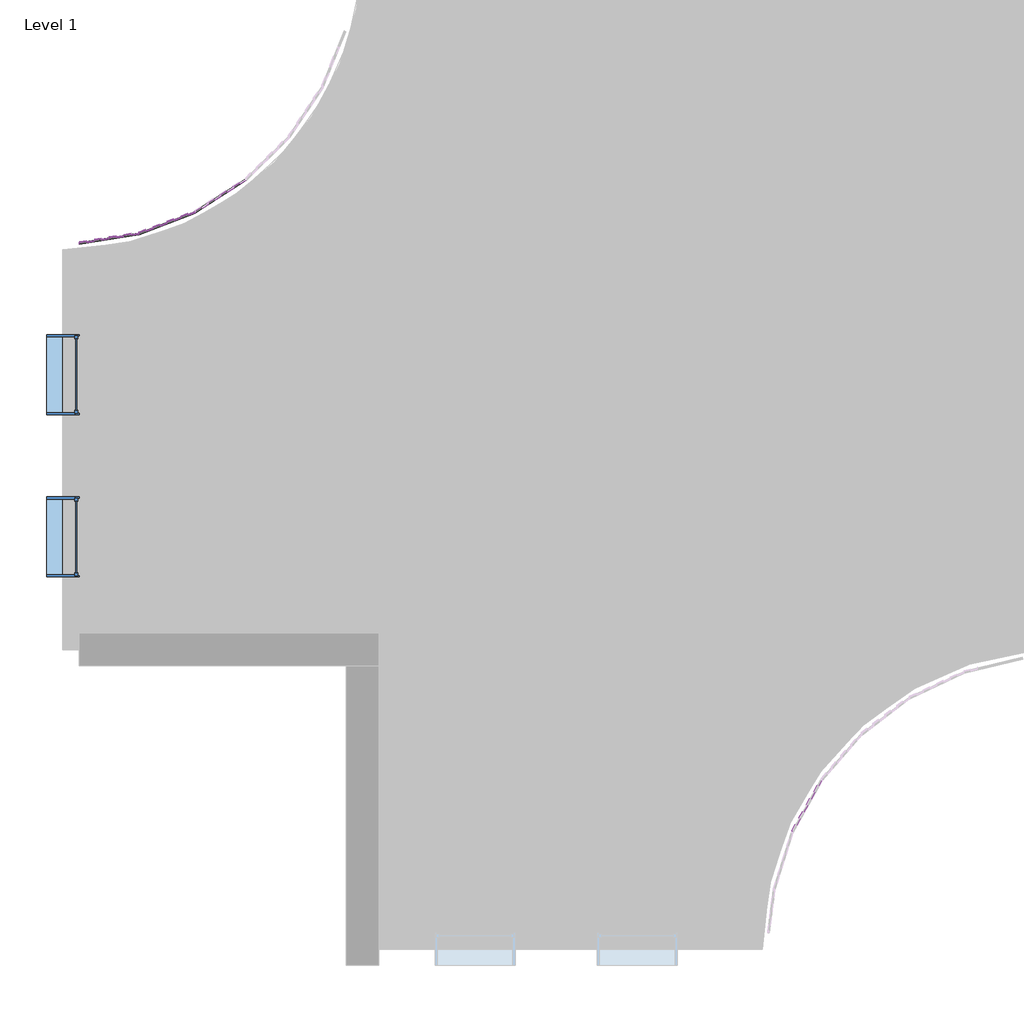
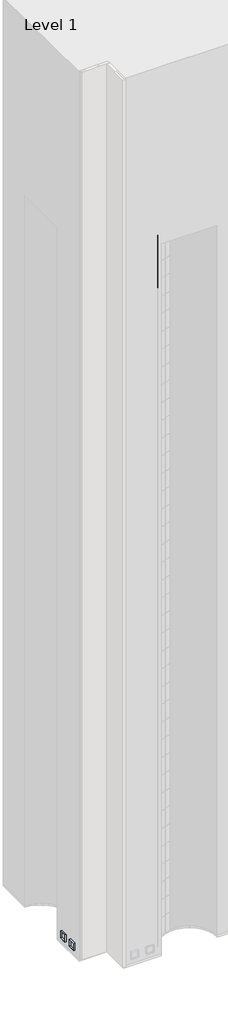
# One storey, part 2 of 20: 120 plates, 2 windows.
"""IFC4 building model written with IfcOpenShell, lengths in millimetres."""

from ifc_helpers import new_model, si_unit, origin, place, context, project, spatial, transform, mapped, element, save
from components import system_panel_glazed_d77d1ebf, window_d0035ecf, window_d434eb62

model = new_model("IFC4")

# Units and contexts
model_context = context("Model", 3, world=origin())
ifc_project = project(units=[si_unit("LENGTHUNIT", "METRE", prefix="MILLI")], contexts=[model_context])

# Site, building, storey
site = spatial("IfcSite", under=ifc_project)
building = spatial("IfcBuilding", under=site)
storey = spatial("IfcBuildingStorey", under=building, Name="Level 1", Elevation=0.0)

# Plates
placement = place(None, origin())
system_panel_glazed_shape = system_panel_glazed_d77d1ebf(model_context)
element("IfcPlate", 1, ObjectType="System Panel : Glazed", at=placement, inside=storey, context=model_context, shape_type="MappedRepresentation", body=[
    mapped(system_panel_glazed_shape, transform((-11020.1328323, -10556.8719816, 0.0), x_axis=(0.987325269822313, 0.15870983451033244, 0.0), y_axis=(-0.15870983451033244, 0.987325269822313, 0.0), z_axis=(0.0, 0.0, 1.0))),
])
element("IfcPlate", 2, ObjectType="System Panel : Glazed", at=placement, inside=storey, context=model_context, shape_type="MappedRepresentation", body=[
    mapped(system_panel_glazed_shape, transform((-11020.1328323, -10556.8719816, 3048.0), x_axis=(0.987325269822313, 0.15870983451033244, 0.0), y_axis=(-0.15870983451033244, 0.987325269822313, 0.0), z_axis=(0.0, 0.0, 1.0))),
])
element("IfcPlate", 3, ObjectType="System Panel : Glazed", at=placement, inside=storey, context=model_context, shape_type="MappedRepresentation", body=[
    mapped(system_panel_glazed_shape, transform((-11020.1328323, -10556.8719816, 6096.0), x_axis=(0.987325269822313, 0.15870983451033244, 0.0), y_axis=(-0.15870983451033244, 0.987325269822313, 0.0), z_axis=(0.0, 0.0, 1.0))),
])
element("IfcPlate", 4, ObjectType="System Panel : Glazed", at=placement, inside=storey, context=model_context, shape_type="MappedRepresentation", body=[
    mapped(system_panel_glazed_shape, transform((-11020.1328323, -10556.8719816, 9144.0), x_axis=(0.987325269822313, 0.15870983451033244, 0.0), y_axis=(-0.15870983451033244, 0.987325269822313, 0.0), z_axis=(0.0, 0.0, 1.0))),
])
element("IfcPlate", 5, ObjectType="System Panel : Glazed", at=placement, inside=storey, context=model_context, shape_type="MappedRepresentation", body=[
    mapped(system_panel_glazed_shape, transform((-11020.1328323, -10556.8719816, 12192.0), x_axis=(0.987325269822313, 0.15870983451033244, 0.0), y_axis=(-0.15870983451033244, 0.987325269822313, 0.0), z_axis=(0.0, 0.0, 1.0))),
])
element("IfcPlate", 6, ObjectType="System Panel : Glazed", at=placement, inside=storey, context=model_context, shape_type="MappedRepresentation", body=[
    mapped(system_panel_glazed_shape, transform((-11020.1328323, -10556.8719816, 15240.0), x_axis=(0.987325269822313, 0.15870983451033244, 0.0), y_axis=(-0.15870983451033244, 0.987325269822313, 0.0), z_axis=(0.0, 0.0, 1.0))),
])
element("IfcPlate", 7, ObjectType="System Panel : Glazed", at=placement, inside=storey, context=model_context, shape_type="MappedRepresentation", body=[
    mapped(system_panel_glazed_shape, transform((-11020.1328323, -10556.8719816, 18288.0), x_axis=(0.987325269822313, 0.15870983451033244, 0.0), y_axis=(-0.15870983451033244, 0.987325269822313, 0.0), z_axis=(0.0, 0.0, 1.0))),
])
element("IfcPlate", 8, ObjectType="System Panel : Glazed", at=placement, inside=storey, context=model_context, shape_type="MappedRepresentation", body=[
    mapped(system_panel_glazed_shape, transform((-11020.1328323, -10556.8719816, 21336.0), x_axis=(0.987325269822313, 0.15870983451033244, 0.0), y_axis=(-0.15870983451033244, 0.987325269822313, 0.0), z_axis=(0.0, 0.0, 1.0))),
])
element("IfcPlate", 9, ObjectType="System Panel : Glazed", at=placement, inside=storey, context=model_context, shape_type="MappedRepresentation", body=[
    mapped(system_panel_glazed_shape, transform((-11020.1328323, -10556.8719816, 24384.0), x_axis=(0.987325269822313, 0.15870983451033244, 0.0), y_axis=(-0.15870983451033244, 0.987325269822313, 0.0), z_axis=(0.0, 0.0, 1.0))),
])
element("IfcPlate", 10, ObjectType="System Panel : Glazed", at=placement, inside=storey, context=model_context, shape_type="MappedRepresentation", body=[
    mapped(system_panel_glazed_shape, transform((-11020.1328323, -10556.8719816, 27432.0), x_axis=(0.987325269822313, 0.15870983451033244, 0.0), y_axis=(-0.15870983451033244, 0.987325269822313, 0.0), z_axis=(0.0, 0.0, 1.0))),
])
element("IfcPlate", 11, ObjectType="System Panel : Glazed", at=placement, inside=storey, context=model_context, shape_type="MappedRepresentation", body=[
    mapped(system_panel_glazed_shape, transform((-11020.1328323, -10556.8719816, 30480.0), x_axis=(0.987325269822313, 0.15870983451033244, 0.0), y_axis=(-0.15870983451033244, 0.987325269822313, 0.0), z_axis=(0.0, 0.0, 1.0))),
])
element("IfcPlate", 12, ObjectType="System Panel : Glazed", at=placement, inside=storey, context=model_context, shape_type="MappedRepresentation", body=[
    mapped(system_panel_glazed_shape, transform((-11020.1328323, -10556.8719816, 33528.0), x_axis=(0.987325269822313, 0.15870983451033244, 0.0), y_axis=(-0.15870983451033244, 0.987325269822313, 0.0), z_axis=(0.0, 0.0, 1.0))),
])
element("IfcPlate", 13, ObjectType="System Panel : Glazed", at=placement, inside=storey, context=model_context, shape_type="MappedRepresentation", body=[
    mapped(system_panel_glazed_shape, transform((-11020.1328323, -10556.8719816, 36576.0), x_axis=(0.987325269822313, 0.15870983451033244, 0.0), y_axis=(-0.15870983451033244, 0.987325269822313, 0.0), z_axis=(0.0, 0.0, 1.0))),
])
element("IfcPlate", 14, ObjectType="System Panel : Glazed", at=placement, inside=storey, context=model_context, shape_type="MappedRepresentation", body=[
    mapped(system_panel_glazed_shape, transform((-11020.1328323, -10556.8719816, 39624.0), x_axis=(0.987325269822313, 0.15870983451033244, 0.0), y_axis=(-0.15870983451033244, 0.987325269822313, 0.0), z_axis=(0.0, 0.0, 1.0))),
])
element("IfcPlate", 15, ObjectType="System Panel : Glazed", at=placement, inside=storey, context=model_context, shape_type="MappedRepresentation", body=[
    mapped(system_panel_glazed_shape, transform((-11020.1328323, -10556.8719816, 42672.0), x_axis=(0.987325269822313, 0.15870983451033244, 0.0), y_axis=(-0.15870983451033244, 0.987325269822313, 0.0), z_axis=(0.0, 0.0, 1.0))),
])
element("IfcPlate", 16, ObjectType="System Panel : Glazed", at=placement, inside=storey, context=model_context, shape_type="MappedRepresentation", body=[
    mapped(system_panel_glazed_shape, transform((-11020.1328323, -10556.8719816, 45720.0), x_axis=(0.987325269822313, 0.15870983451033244, 0.0), y_axis=(-0.15870983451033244, 0.987325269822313, 0.0), z_axis=(0.0, 0.0, 1.0))),
])
element("IfcPlate", 17, ObjectType="System Panel : Glazed", at=placement, inside=storey, context=model_context, shape_type="MappedRepresentation", body=[
    mapped(system_panel_glazed_shape, transform((-11020.1328323, -10556.8719816, 48768.0), x_axis=(0.987325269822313, 0.15870983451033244, 0.0), y_axis=(-0.15870983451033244, 0.987325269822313, 0.0), z_axis=(0.0, 0.0, 1.0))),
])
element("IfcPlate", 18, ObjectType="System Panel : Glazed", at=placement, inside=storey, context=model_context, shape_type="MappedRepresentation", body=[
    mapped(system_panel_glazed_shape, transform((-11020.1328323, -10556.8719816, 51816.0), x_axis=(0.987325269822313, 0.15870983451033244, 0.0), y_axis=(-0.15870983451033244, 0.987325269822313, 0.0), z_axis=(0.0, 0.0, 1.0))),
])
element("IfcPlate", 19, ObjectType="System Panel : Glazed", at=placement, inside=storey, context=model_context, shape_type="MappedRepresentation", body=[
    mapped(system_panel_glazed_shape, transform((-11020.1328323, -10556.8719816, 54864.0), x_axis=(0.987325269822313, 0.15870983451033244, 0.0), y_axis=(-0.15870983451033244, 0.987325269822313, 0.0), z_axis=(0.0, 0.0, 1.0))),
])
element("IfcPlate", 20, ObjectType="System Panel : Glazed", at=placement, inside=storey, context=model_context, shape_type="MappedRepresentation", body=[
    mapped(system_panel_glazed_shape, transform((-11020.1328323, -10556.8719816, 57912.0), x_axis=(0.987325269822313, 0.15870983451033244, 0.0), y_axis=(-0.15870983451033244, 0.987325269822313, 0.0), z_axis=(0.0, 0.0, 1.0))),
])
element("IfcPlate", 21, ObjectType="System Panel : Glazed", at=placement, inside=storey, context=model_context, shape_type="MappedRepresentation", body=[
    mapped(system_panel_glazed_shape, transform((-11020.1328323, -10556.8719816, 60960.0), x_axis=(0.987325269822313, 0.15870983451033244, 0.0), y_axis=(-0.15870983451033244, 0.987325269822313, 0.0), z_axis=(0.0, 0.0, 1.0))),
])
element("IfcPlate", 22, ObjectType="System Panel : Glazed", at=placement, inside=storey, context=model_context, shape_type="MappedRepresentation", body=[
    mapped(system_panel_glazed_shape, transform((-11020.1328323, -10556.8719816, 64008.0), x_axis=(0.987325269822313, 0.15870983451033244, 0.0), y_axis=(-0.15870983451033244, 0.987325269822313, 0.0), z_axis=(0.0, 0.0, 1.0))),
])
element("IfcPlate", 23, ObjectType="System Panel : Glazed", at=placement, inside=storey, context=model_context, shape_type="MappedRepresentation", body=[
    mapped(system_panel_glazed_shape, transform((-11020.1328323, -10556.8719816, 67056.0), x_axis=(0.987325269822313, 0.15870983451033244, 0.0), y_axis=(-0.15870983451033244, 0.987325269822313, 0.0), z_axis=(0.0, 0.0, 1.0))),
])
element("IfcPlate", 24, ObjectType="System Panel : Glazed", at=placement, inside=storey, context=model_context, shape_type="MappedRepresentation", body=[
    mapped(system_panel_glazed_shape, transform((-11020.1328323, -10556.8719816, 70104.0), x_axis=(0.987325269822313, 0.15870983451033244, 0.0), y_axis=(-0.15870983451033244, 0.987325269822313, 0.0), z_axis=(0.0, 0.0, 1.0))),
])
element("IfcPlate", 25, ObjectType="System Panel : Glazed", at=placement, inside=storey, context=model_context, shape_type="MappedRepresentation", body=[
    mapped(system_panel_glazed_shape, transform((-11020.1328323, -10556.8719816, 73152.0), x_axis=(0.987325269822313, 0.15870983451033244, 0.0), y_axis=(-0.15870983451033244, 0.987325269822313, 0.0), z_axis=(0.0, 0.0, 1.0))),
])
element("IfcPlate", 26, ObjectType="System Panel : Glazed", at=placement, inside=storey, context=model_context, shape_type="MappedRepresentation", body=[
    mapped(system_panel_glazed_shape, transform((-11020.1328323, -10556.8719816, 76200.0), x_axis=(0.987325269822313, 0.15870983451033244, 0.0), y_axis=(-0.15870983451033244, 0.987325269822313, 0.0), z_axis=(0.0, 0.0, 1.0))),
])
element("IfcPlate", 27, ObjectType="System Panel : Glazed", at=placement, inside=storey, context=model_context, shape_type="MappedRepresentation", body=[
    mapped(system_panel_glazed_shape, transform((-11020.1328323, -10556.8719816, 79248.0), x_axis=(0.987325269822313, 0.15870983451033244, 0.0), y_axis=(-0.15870983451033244, 0.987325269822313, 0.0), z_axis=(0.0, 0.0, 1.0))),
])
element("IfcPlate", 28, ObjectType="System Panel : Glazed", at=placement, inside=storey, context=model_context, shape_type="MappedRepresentation", body=[
    mapped(system_panel_glazed_shape, transform((-11020.1328323, -10556.8719816, 82296.0), x_axis=(0.987325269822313, 0.15870983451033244, 0.0), y_axis=(-0.15870983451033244, 0.987325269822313, 0.0), z_axis=(0.0, 0.0, 1.0))),
])
element("IfcPlate", 29, ObjectType="System Panel : Glazed", at=placement, inside=storey, context=model_context, shape_type="MappedRepresentation", body=[
    mapped(system_panel_glazed_shape, transform((-11020.1328323, -10556.8719816, 85344.0), x_axis=(0.987325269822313, 0.15870983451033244, 0.0), y_axis=(-0.15870983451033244, 0.987325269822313, 0.0), z_axis=(0.0, 0.0, 1.0))),
])
element("IfcPlate", 30, ObjectType="System Panel : Glazed", at=placement, inside=storey, context=model_context, shape_type="MappedRepresentation", body=[
    mapped(system_panel_glazed_shape, transform((-11020.1328323, -10556.8719816, 88392.0), x_axis=(0.987325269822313, 0.15870983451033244, 0.0), y_axis=(-0.15870983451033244, 0.987325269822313, 0.0), z_axis=(0.0, 0.0, 1.0))),
])
element("IfcPlate", 31, ObjectType="System Panel : Glazed", at=placement, inside=storey, context=model_context, shape_type="MappedRepresentation", body=[
    mapped(system_panel_glazed_shape, transform((-11020.1328323, -10556.8719816, 91440.0), x_axis=(0.987325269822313, 0.15870983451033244, 0.0), y_axis=(-0.15870983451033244, 0.987325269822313, 0.0), z_axis=(0.0, 0.0, 1.0))),
])
element("IfcPlate", 32, ObjectType="System Panel : Glazed", at=placement, inside=storey, context=model_context, shape_type="MappedRepresentation", body=[
    mapped(system_panel_glazed_shape, transform((-11020.1328323, -10556.8719816, 94488.0), x_axis=(0.987325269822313, 0.15870983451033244, 0.0), y_axis=(-0.15870983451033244, 0.987325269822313, 0.0), z_axis=(0.0, 0.0, 1.0))),
])
element("IfcPlate", 33, ObjectType="System Panel : Glazed", at=placement, inside=storey, context=model_context, shape_type="MappedRepresentation", body=[
    mapped(system_panel_glazed_shape, transform((-11020.1328323, -10556.8719816, 97536.0), x_axis=(0.987325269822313, 0.15870983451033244, 0.0), y_axis=(-0.15870983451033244, 0.987325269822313, 0.0), z_axis=(0.0, 0.0, 1.0))),
])
element("IfcPlate", 34, ObjectType="System Panel : Glazed", at=placement, inside=storey, context=model_context, shape_type="MappedRepresentation", body=[
    mapped(system_panel_glazed_shape, transform((-11020.1328323, -10556.8719816, 100584.0), x_axis=(0.987325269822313, 0.15870983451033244, 0.0), y_axis=(-0.15870983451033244, 0.987325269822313, 0.0), z_axis=(0.0, 0.0, 1.0))),
])
element("IfcPlate", 35, ObjectType="System Panel : Glazed", at=placement, inside=storey, context=model_context, shape_type="MappedRepresentation", body=[
    mapped(system_panel_glazed_shape, transform((-341.6843115, -19264.3431106, 112776.0), x_axis=(-0.4890804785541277, -0.8722386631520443, 0.0), y_axis=(0.8722386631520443, -0.4890804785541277, 0.0), z_axis=(0.0, 0.0, 1.0))),
])
element("IfcPlate", 36, ObjectType="System Panel : Glazed", at=placement, inside=storey, context=model_context, shape_type="MappedRepresentation", body=[
    mapped(system_panel_glazed_shape, transform((-341.6843115, -19264.3431106, 115824.0), x_axis=(-0.4890804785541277, -0.8722386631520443, 0.0), y_axis=(0.8722386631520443, -0.4890804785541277, 0.0), z_axis=(0.0, 0.0, 1.0))),
])
element("IfcPlate", 37, ObjectType="System Panel : Glazed", at=placement, inside=storey, context=model_context, shape_type="MappedRepresentation", body=[
    mapped(system_panel_glazed_shape, transform((-341.6843115, -19264.3431106, 118872.0), x_axis=(-0.4890804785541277, -0.8722386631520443, 0.0), y_axis=(0.8722386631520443, -0.4890804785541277, 0.0), z_axis=(0.0, 0.0, 1.0))),
])
element("IfcPlate", 38, ObjectType="System Panel : Glazed", at=placement, inside=storey, context=model_context, shape_type="MappedRepresentation", body=[
    mapped(system_panel_glazed_shape, transform((-9330.0583838, -9910.4472199, 0.0), x_axis=(0.8412279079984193, 0.5406806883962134, 0.0), y_axis=(-0.5406806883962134, 0.8412279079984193, 0.0), z_axis=(0.0, 0.0, 1.0))),
])
element("IfcPlate", 39, ObjectType="System Panel : Glazed", at=placement, inside=storey, context=model_context, shape_type="MappedRepresentation", body=[
    mapped(system_panel_glazed_shape, transform((-9330.0583838, -9910.4472199, 3048.0), x_axis=(0.8412279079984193, 0.5406806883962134, 0.0), y_axis=(-0.5406806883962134, 0.8412279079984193, 0.0), z_axis=(0.0, 0.0, 1.0))),
])
element("IfcPlate", 40, ObjectType="System Panel : Glazed", at=placement, inside=storey, context=model_context, shape_type="MappedRepresentation", body=[
    mapped(system_panel_glazed_shape, transform((-9330.0583838, -9910.4472199, 6096.0), x_axis=(0.8412279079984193, 0.5406806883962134, 0.0), y_axis=(-0.5406806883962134, 0.8412279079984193, 0.0), z_axis=(0.0, 0.0, 1.0))),
])
element("IfcPlate", 41, ObjectType="System Panel : Glazed", at=placement, inside=storey, context=model_context, shape_type="MappedRepresentation", body=[
    mapped(system_panel_glazed_shape, transform((-9330.0583838, -9910.4472199, 9144.0), x_axis=(0.8412279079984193, 0.5406806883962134, 0.0), y_axis=(-0.5406806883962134, 0.8412279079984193, 0.0), z_axis=(0.0, 0.0, 1.0))),
])
element("IfcPlate", 42, ObjectType="System Panel : Glazed", at=placement, inside=storey, context=model_context, shape_type="MappedRepresentation", body=[
    mapped(system_panel_glazed_shape, transform((-9330.0583838, -9910.4472199, 12192.0), x_axis=(0.8412279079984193, 0.5406806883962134, 0.0), y_axis=(-0.5406806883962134, 0.8412279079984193, 0.0), z_axis=(0.0, 0.0, 1.0))),
])
element("IfcPlate", 43, ObjectType="System Panel : Glazed", at=placement, inside=storey, context=model_context, shape_type="MappedRepresentation", body=[
    mapped(system_panel_glazed_shape, transform((-9330.0583838, -9910.4472199, 15240.0), x_axis=(0.8412279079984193, 0.5406806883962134, 0.0), y_axis=(-0.5406806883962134, 0.8412279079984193, 0.0), z_axis=(0.0, 0.0, 1.0))),
])
element("IfcPlate", 44, ObjectType="System Panel : Glazed", at=placement, inside=storey, context=model_context, shape_type="MappedRepresentation", body=[
    mapped(system_panel_glazed_shape, transform((-9330.0583838, -9910.4472199, 18288.0), x_axis=(0.8412279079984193, 0.5406806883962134, 0.0), y_axis=(-0.5406806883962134, 0.8412279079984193, 0.0), z_axis=(0.0, 0.0, 1.0))),
])
element("IfcPlate", 45, ObjectType="System Panel : Glazed", at=placement, inside=storey, context=model_context, shape_type="MappedRepresentation", body=[
    mapped(system_panel_glazed_shape, transform((-9330.0583838, -9910.4472199, 21336.0), x_axis=(0.8412279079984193, 0.5406806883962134, 0.0), y_axis=(-0.5406806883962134, 0.8412279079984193, 0.0), z_axis=(0.0, 0.0, 1.0))),
])
element("IfcPlate", 46, ObjectType="System Panel : Glazed", at=placement, inside=storey, context=model_context, shape_type="MappedRepresentation", body=[
    mapped(system_panel_glazed_shape, transform((-9330.0583838, -9910.4472199, 24384.0), x_axis=(0.8412279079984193, 0.5406806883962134, 0.0), y_axis=(-0.5406806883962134, 0.8412279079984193, 0.0), z_axis=(0.0, 0.0, 1.0))),
])
element("IfcPlate", 47, ObjectType="System Panel : Glazed", at=placement, inside=storey, context=model_context, shape_type="MappedRepresentation", body=[
    mapped(system_panel_glazed_shape, transform((-9330.0583838, -9910.4472199, 27432.0), x_axis=(0.8412279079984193, 0.5406806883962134, 0.0), y_axis=(-0.5406806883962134, 0.8412279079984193, 0.0), z_axis=(0.0, 0.0, 1.0))),
])
element("IfcPlate", 48, ObjectType="System Panel : Glazed", at=placement, inside=storey, context=model_context, shape_type="MappedRepresentation", body=[
    mapped(system_panel_glazed_shape, transform((-9330.0583838, -9910.4472199, 30480.0), x_axis=(0.8412279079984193, 0.5406806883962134, 0.0), y_axis=(-0.5406806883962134, 0.8412279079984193, 0.0), z_axis=(0.0, 0.0, 1.0))),
])
element("IfcPlate", 49, ObjectType="System Panel : Glazed", at=placement, inside=storey, context=model_context, shape_type="MappedRepresentation", body=[
    mapped(system_panel_glazed_shape, transform((-9330.0583838, -9910.4472199, 33528.0), x_axis=(0.8412279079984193, 0.5406806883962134, 0.0), y_axis=(-0.5406806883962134, 0.8412279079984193, 0.0), z_axis=(0.0, 0.0, 1.0))),
])
element("IfcPlate", 50, ObjectType="System Panel : Glazed", at=placement, inside=storey, context=model_context, shape_type="MappedRepresentation", body=[
    mapped(system_panel_glazed_shape, transform((-9330.0583838, -9910.4472199, 36576.0), x_axis=(0.8412279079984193, 0.5406806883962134, 0.0), y_axis=(-0.5406806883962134, 0.8412279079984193, 0.0), z_axis=(0.0, 0.0, 1.0))),
])
element("IfcPlate", 51, ObjectType="System Panel : Glazed", at=placement, inside=storey, context=model_context, shape_type="MappedRepresentation", body=[
    mapped(system_panel_glazed_shape, transform((-9330.0583838, -9910.4472199, 39624.0), x_axis=(0.8412279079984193, 0.5406806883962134, 0.0), y_axis=(-0.5406806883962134, 0.8412279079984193, 0.0), z_axis=(0.0, 0.0, 1.0))),
])
element("IfcPlate", 52, ObjectType="System Panel : Glazed", at=placement, inside=storey, context=model_context, shape_type="MappedRepresentation", body=[
    mapped(system_panel_glazed_shape, transform((-9330.0583838, -9910.4472199, 42672.0), x_axis=(0.8412279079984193, 0.5406806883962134, 0.0), y_axis=(-0.5406806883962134, 0.8412279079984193, 0.0), z_axis=(0.0, 0.0, 1.0))),
])
element("IfcPlate", 53, ObjectType="System Panel : Glazed", at=placement, inside=storey, context=model_context, shape_type="MappedRepresentation", body=[
    mapped(system_panel_glazed_shape, transform((-9330.0583838, -9910.4472199, 45720.0), x_axis=(0.8412279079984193, 0.5406806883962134, 0.0), y_axis=(-0.5406806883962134, 0.8412279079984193, 0.0), z_axis=(0.0, 0.0, 1.0))),
])
element("IfcPlate", 54, ObjectType="System Panel : Glazed", at=placement, inside=storey, context=model_context, shape_type="MappedRepresentation", body=[
    mapped(system_panel_glazed_shape, transform((-9330.0583838, -9910.4472199, 48768.0), x_axis=(0.8412279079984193, 0.5406806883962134, 0.0), y_axis=(-0.5406806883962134, 0.8412279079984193, 0.0), z_axis=(0.0, 0.0, 1.0))),
])
element("IfcPlate", 55, ObjectType="System Panel : Glazed", at=placement, inside=storey, context=model_context, shape_type="MappedRepresentation", body=[
    mapped(system_panel_glazed_shape, transform((-9330.0583838, -9910.4472199, 51816.0), x_axis=(0.8412279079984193, 0.5406806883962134, 0.0), y_axis=(-0.5406806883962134, 0.8412279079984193, 0.0), z_axis=(0.0, 0.0, 1.0))),
])
element("IfcPlate", 56, ObjectType="System Panel : Glazed", at=placement, inside=storey, context=model_context, shape_type="MappedRepresentation", body=[
    mapped(system_panel_glazed_shape, transform((-9330.0583838, -9910.4472199, 54864.0), x_axis=(0.8412279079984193, 0.5406806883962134, 0.0), y_axis=(-0.5406806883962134, 0.8412279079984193, 0.0), z_axis=(0.0, 0.0, 1.0))),
])
element("IfcPlate", 57, ObjectType="System Panel : Glazed", at=placement, inside=storey, context=model_context, shape_type="MappedRepresentation", body=[
    mapped(system_panel_glazed_shape, transform((-9330.0583838, -9910.4472199, 57912.0), x_axis=(0.8412279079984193, 0.5406806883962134, 0.0), y_axis=(-0.5406806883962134, 0.8412279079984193, 0.0), z_axis=(0.0, 0.0, 1.0))),
])
element("IfcPlate", 58, ObjectType="System Panel : Glazed", at=placement, inside=storey, context=model_context, shape_type="MappedRepresentation", body=[
    mapped(system_panel_glazed_shape, transform((-9330.0583838, -9910.4472199, 60960.0), x_axis=(0.8412279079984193, 0.5406806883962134, 0.0), y_axis=(-0.5406806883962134, 0.8412279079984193, 0.0), z_axis=(0.0, 0.0, 1.0))),
])
element("IfcPlate", 59, ObjectType="System Panel : Glazed", at=placement, inside=storey, context=model_context, shape_type="MappedRepresentation", body=[
    mapped(system_panel_glazed_shape, transform((-9330.0583838, -9910.4472199, 64008.0), x_axis=(0.8412279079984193, 0.5406806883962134, 0.0), y_axis=(-0.5406806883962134, 0.8412279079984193, 0.0), z_axis=(0.0, 0.0, 1.0))),
])
element("IfcPlate", 60, ObjectType="System Panel : Glazed", at=placement, inside=storey, context=model_context, shape_type="MappedRepresentation", body=[
    mapped(system_panel_glazed_shape, transform((-9330.0583838, -9910.4472199, 67056.0), x_axis=(0.8412279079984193, 0.5406806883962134, 0.0), y_axis=(-0.5406806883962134, 0.8412279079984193, 0.0), z_axis=(0.0, 0.0, 1.0))),
])
element("IfcPlate", 61, ObjectType="System Panel : Glazed", at=placement, inside=storey, context=model_context, shape_type="MappedRepresentation", body=[
    mapped(system_panel_glazed_shape, transform((-9330.0583838, -9910.4472199, 70104.0), x_axis=(0.8412279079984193, 0.5406806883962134, 0.0), y_axis=(-0.5406806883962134, 0.8412279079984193, 0.0), z_axis=(0.0, 0.0, 1.0))),
])
element("IfcPlate", 62, ObjectType="System Panel : Glazed", at=placement, inside=storey, context=model_context, shape_type="MappedRepresentation", body=[
    mapped(system_panel_glazed_shape, transform((-9330.0583838, -9910.4472199, 73152.0), x_axis=(0.8412279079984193, 0.5406806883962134, 0.0), y_axis=(-0.5406806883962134, 0.8412279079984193, 0.0), z_axis=(0.0, 0.0, 1.0))),
])
element("IfcPlate", 63, ObjectType="System Panel : Glazed", at=placement, inside=storey, context=model_context, shape_type="MappedRepresentation", body=[
    mapped(system_panel_glazed_shape, transform((-9330.0583838, -9910.4472199, 76200.0), x_axis=(0.8412279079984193, 0.5406806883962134, 0.0), y_axis=(-0.5406806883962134, 0.8412279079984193, 0.0), z_axis=(0.0, 0.0, 1.0))),
])
element("IfcPlate", 64, ObjectType="System Panel : Glazed", at=placement, inside=storey, context=model_context, shape_type="MappedRepresentation", body=[
    mapped(system_panel_glazed_shape, transform((-9330.0583838, -9910.4472199, 79248.0), x_axis=(0.8412279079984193, 0.5406806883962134, 0.0), y_axis=(-0.5406806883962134, 0.8412279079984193, 0.0), z_axis=(0.0, 0.0, 1.0))),
])
element("IfcPlate", 65, ObjectType="System Panel : Glazed", at=placement, inside=storey, context=model_context, shape_type="MappedRepresentation", body=[
    mapped(system_panel_glazed_shape, transform((-9330.0583838, -9910.4472199, 82296.0), x_axis=(0.8412279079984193, 0.5406806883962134, 0.0), y_axis=(-0.5406806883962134, 0.8412279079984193, 0.0), z_axis=(0.0, 0.0, 1.0))),
])
element("IfcPlate", 66, ObjectType="System Panel : Glazed", at=placement, inside=storey, context=model_context, shape_type="MappedRepresentation", body=[
    mapped(system_panel_glazed_shape, transform((-9330.0583838, -9910.4472199, 85344.0), x_axis=(0.8412279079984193, 0.5406806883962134, 0.0), y_axis=(-0.5406806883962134, 0.8412279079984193, 0.0), z_axis=(0.0, 0.0, 1.0))),
])
element("IfcPlate", 67, ObjectType="System Panel : Glazed", at=placement, inside=storey, context=model_context, shape_type="MappedRepresentation", body=[
    mapped(system_panel_glazed_shape, transform((-9330.0583838, -9910.4472199, 88392.0), x_axis=(0.8412279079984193, 0.5406806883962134, 0.0), y_axis=(-0.5406806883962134, 0.8412279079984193, 0.0), z_axis=(0.0, 0.0, 1.0))),
])
element("IfcPlate", 68, ObjectType="System Panel : Glazed", at=placement, inside=storey, context=model_context, shape_type="MappedRepresentation", body=[
    mapped(system_panel_glazed_shape, transform((-9330.0583838, -9910.4472199, 91440.0), x_axis=(0.8412279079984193, 0.5406806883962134, 0.0), y_axis=(-0.5406806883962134, 0.8412279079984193, 0.0), z_axis=(0.0, 0.0, 1.0))),
])
element("IfcPlate", 69, ObjectType="System Panel : Glazed", at=placement, inside=storey, context=model_context, shape_type="MappedRepresentation", body=[
    mapped(system_panel_glazed_shape, transform((-9330.0583838, -9910.4472199, 94488.0), x_axis=(0.8412279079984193, 0.5406806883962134, 0.0), y_axis=(-0.5406806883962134, 0.8412279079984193, 0.0), z_axis=(0.0, 0.0, 1.0))),
])
element("IfcPlate", 70, ObjectType="System Panel : Glazed", at=placement, inside=storey, context=model_context, shape_type="MappedRepresentation", body=[
    mapped(system_panel_glazed_shape, transform((-9330.0583838, -9910.4472199, 97536.0), x_axis=(0.8412279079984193, 0.5406806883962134, 0.0), y_axis=(-0.5406806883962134, 0.8412279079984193, 0.0), z_axis=(0.0, 0.0, 1.0))),
])
element("IfcPlate", 71, ObjectType="System Panel : Glazed", at=placement, inside=storey, context=model_context, shape_type="MappedRepresentation", body=[
    mapped(system_panel_glazed_shape, transform((-9330.0583838, -9910.4472199, 100584.0), x_axis=(0.8412279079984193, 0.5406806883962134, 0.0), y_axis=(-0.5406806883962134, 0.8412279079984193, 0.0), z_axis=(0.0, 0.0, 1.0))),
])
element("IfcPlate", 72, ObjectType="System Panel : Glazed", at=placement, inside=storey, context=model_context, shape_type="MappedRepresentation", body=[
    mapped(system_panel_glazed_shape, transform((-10141.6977511, -10320.9781379, 0.0), x_axis=(0.9340113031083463, 0.35724345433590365, 0.0), y_axis=(-0.35724345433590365, 0.9340113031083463, 0.0), z_axis=(0.0, 0.0, 1.0))),
])
element("IfcPlate", 73, ObjectType="System Panel : Glazed", at=placement, inside=storey, context=model_context, shape_type="MappedRepresentation", body=[
    mapped(system_panel_glazed_shape, transform((-10141.6977511, -10320.9781379, 3048.0), x_axis=(0.9340113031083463, 0.35724345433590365, 0.0), y_axis=(-0.35724345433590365, 0.9340113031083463, 0.0), z_axis=(0.0, 0.0, 1.0))),
])
element("IfcPlate", 74, ObjectType="System Panel : Glazed", at=placement, inside=storey, context=model_context, shape_type="MappedRepresentation", body=[
    mapped(system_panel_glazed_shape, transform((-10141.6977511, -10320.9781379, 6096.0), x_axis=(0.9340113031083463, 0.35724345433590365, 0.0), y_axis=(-0.35724345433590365, 0.9340113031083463, 0.0), z_axis=(0.0, 0.0, 1.0))),
])
element("IfcPlate", 75, ObjectType="System Panel : Glazed", at=placement, inside=storey, context=model_context, shape_type="MappedRepresentation", body=[
    mapped(system_panel_glazed_shape, transform((-10141.6977511, -10320.9781379, 9144.0), x_axis=(0.9340113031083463, 0.35724345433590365, 0.0), y_axis=(-0.35724345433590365, 0.9340113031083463, 0.0), z_axis=(0.0, 0.0, 1.0))),
])
element("IfcPlate", 76, ObjectType="System Panel : Glazed", at=placement, inside=storey, context=model_context, shape_type="MappedRepresentation", body=[
    mapped(system_panel_glazed_shape, transform((-10141.6977511, -10320.9781379, 12192.0), x_axis=(0.9340113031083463, 0.35724345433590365, 0.0), y_axis=(-0.35724345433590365, 0.9340113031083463, 0.0), z_axis=(0.0, 0.0, 1.0))),
])
element("IfcPlate", 77, ObjectType="System Panel : Glazed", at=placement, inside=storey, context=model_context, shape_type="MappedRepresentation", body=[
    mapped(system_panel_glazed_shape, transform((-10141.6977511, -10320.9781379, 15240.0), x_axis=(0.9340113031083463, 0.35724345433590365, 0.0), y_axis=(-0.35724345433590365, 0.9340113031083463, 0.0), z_axis=(0.0, 0.0, 1.0))),
])
element("IfcPlate", 78, ObjectType="System Panel : Glazed", at=placement, inside=storey, context=model_context, shape_type="MappedRepresentation", body=[
    mapped(system_panel_glazed_shape, transform((-10141.6977511, -10320.9781379, 18288.0), x_axis=(0.9340113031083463, 0.35724345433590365, 0.0), y_axis=(-0.35724345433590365, 0.9340113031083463, 0.0), z_axis=(0.0, 0.0, 1.0))),
])
element("IfcPlate", 79, ObjectType="System Panel : Glazed", at=placement, inside=storey, context=model_context, shape_type="MappedRepresentation", body=[
    mapped(system_panel_glazed_shape, transform((-10141.6977511, -10320.9781379, 21336.0), x_axis=(0.9340113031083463, 0.35724345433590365, 0.0), y_axis=(-0.35724345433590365, 0.9340113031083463, 0.0), z_axis=(0.0, 0.0, 1.0))),
])
element("IfcPlate", 80, ObjectType="System Panel : Glazed", at=placement, inside=storey, context=model_context, shape_type="MappedRepresentation", body=[
    mapped(system_panel_glazed_shape, transform((-10141.6977511, -10320.9781379, 24384.0), x_axis=(0.9340113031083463, 0.35724345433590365, 0.0), y_axis=(-0.35724345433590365, 0.9340113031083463, 0.0), z_axis=(0.0, 0.0, 1.0))),
])
element("IfcPlate", 81, ObjectType="System Panel : Glazed", at=placement, inside=storey, context=model_context, shape_type="MappedRepresentation", body=[
    mapped(system_panel_glazed_shape, transform((-10141.6977511, -10320.9781379, 27432.0), x_axis=(0.9340113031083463, 0.35724345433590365, 0.0), y_axis=(-0.35724345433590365, 0.9340113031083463, 0.0), z_axis=(0.0, 0.0, 1.0))),
])
element("IfcPlate", 82, ObjectType="System Panel : Glazed", at=placement, inside=storey, context=model_context, shape_type="MappedRepresentation", body=[
    mapped(system_panel_glazed_shape, transform((-10141.6977511, -10320.9781379, 30480.0), x_axis=(0.9340113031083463, 0.35724345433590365, 0.0), y_axis=(-0.35724345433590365, 0.9340113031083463, 0.0), z_axis=(0.0, 0.0, 1.0))),
])
element("IfcPlate", 83, ObjectType="System Panel : Glazed", at=placement, inside=storey, context=model_context, shape_type="MappedRepresentation", body=[
    mapped(system_panel_glazed_shape, transform((-10141.6977511, -10320.9781379, 33528.0), x_axis=(0.9340113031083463, 0.35724345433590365, 0.0), y_axis=(-0.35724345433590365, 0.9340113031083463, 0.0), z_axis=(0.0, 0.0, 1.0))),
])
element("IfcPlate", 84, ObjectType="System Panel : Glazed", at=placement, inside=storey, context=model_context, shape_type="MappedRepresentation", body=[
    mapped(system_panel_glazed_shape, transform((-10141.6977511, -10320.9781379, 36576.0), x_axis=(0.9340113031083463, 0.35724345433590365, 0.0), y_axis=(-0.35724345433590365, 0.9340113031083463, 0.0), z_axis=(0.0, 0.0, 1.0))),
])
element("IfcPlate", 85, ObjectType="System Panel : Glazed", at=placement, inside=storey, context=model_context, shape_type="MappedRepresentation", body=[
    mapped(system_panel_glazed_shape, transform((-10141.6977511, -10320.9781379, 39624.0), x_axis=(0.9340113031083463, 0.35724345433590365, 0.0), y_axis=(-0.35724345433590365, 0.9340113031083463, 0.0), z_axis=(0.0, 0.0, 1.0))),
])
element("IfcPlate", 86, ObjectType="System Panel : Glazed", at=placement, inside=storey, context=model_context, shape_type="MappedRepresentation", body=[
    mapped(system_panel_glazed_shape, transform((-10141.6977511, -10320.9781379, 42672.0), x_axis=(0.9340113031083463, 0.35724345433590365, 0.0), y_axis=(-0.35724345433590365, 0.9340113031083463, 0.0), z_axis=(0.0, 0.0, 1.0))),
])
element("IfcPlate", 87, ObjectType="System Panel : Glazed", at=placement, inside=storey, context=model_context, shape_type="MappedRepresentation", body=[
    mapped(system_panel_glazed_shape, transform((-10141.6977511, -10320.9781379, 45720.0), x_axis=(0.9340113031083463, 0.35724345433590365, 0.0), y_axis=(-0.35724345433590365, 0.9340113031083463, 0.0), z_axis=(0.0, 0.0, 1.0))),
])
element("IfcPlate", 88, ObjectType="System Panel : Glazed", at=placement, inside=storey, context=model_context, shape_type="MappedRepresentation", body=[
    mapped(system_panel_glazed_shape, transform((-10141.6977511, -10320.9781379, 48768.0), x_axis=(0.9340113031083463, 0.35724345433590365, 0.0), y_axis=(-0.35724345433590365, 0.9340113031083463, 0.0), z_axis=(0.0, 0.0, 1.0))),
])
element("IfcPlate", 89, ObjectType="System Panel : Glazed", at=placement, inside=storey, context=model_context, shape_type="MappedRepresentation", body=[
    mapped(system_panel_glazed_shape, transform((-10141.6977511, -10320.9781379, 51816.0), x_axis=(0.9340113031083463, 0.35724345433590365, 0.0), y_axis=(-0.35724345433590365, 0.9340113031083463, 0.0), z_axis=(0.0, 0.0, 1.0))),
])
element("IfcPlate", 90, ObjectType="System Panel : Glazed", at=placement, inside=storey, context=model_context, shape_type="MappedRepresentation", body=[
    mapped(system_panel_glazed_shape, transform((-10141.6977511, -10320.9781379, 54864.0), x_axis=(0.9340113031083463, 0.35724345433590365, 0.0), y_axis=(-0.35724345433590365, 0.9340113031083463, 0.0), z_axis=(0.0, 0.0, 1.0))),
])
element("IfcPlate", 91, ObjectType="System Panel : Glazed", at=placement, inside=storey, context=model_context, shape_type="MappedRepresentation", body=[
    mapped(system_panel_glazed_shape, transform((-10141.6977511, -10320.9781379, 57912.0), x_axis=(0.9340113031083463, 0.35724345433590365, 0.0), y_axis=(-0.35724345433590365, 0.9340113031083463, 0.0), z_axis=(0.0, 0.0, 1.0))),
])
element("IfcPlate", 92, ObjectType="System Panel : Glazed", at=placement, inside=storey, context=model_context, shape_type="MappedRepresentation", body=[
    mapped(system_panel_glazed_shape, transform((-10141.6977511, -10320.9781379, 60960.0), x_axis=(0.9340113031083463, 0.35724345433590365, 0.0), y_axis=(-0.35724345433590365, 0.9340113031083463, 0.0), z_axis=(0.0, 0.0, 1.0))),
])
element("IfcPlate", 93, ObjectType="System Panel : Glazed", at=placement, inside=storey, context=model_context, shape_type="MappedRepresentation", body=[
    mapped(system_panel_glazed_shape, transform((-10141.6977511, -10320.9781379, 64008.0), x_axis=(0.9340113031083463, 0.35724345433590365, 0.0), y_axis=(-0.35724345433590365, 0.9340113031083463, 0.0), z_axis=(0.0, 0.0, 1.0))),
])
element("IfcPlate", 94, ObjectType="System Panel : Glazed", at=placement, inside=storey, context=model_context, shape_type="MappedRepresentation", body=[
    mapped(system_panel_glazed_shape, transform((-10141.6977511, -10320.9781379, 67056.0), x_axis=(0.9340113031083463, 0.35724345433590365, 0.0), y_axis=(-0.35724345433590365, 0.9340113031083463, 0.0), z_axis=(0.0, 0.0, 1.0))),
])
element("IfcPlate", 95, ObjectType="System Panel : Glazed", at=placement, inside=storey, context=model_context, shape_type="MappedRepresentation", body=[
    mapped(system_panel_glazed_shape, transform((-10141.6977511, -10320.9781379, 70104.0), x_axis=(0.9340113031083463, 0.35724345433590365, 0.0), y_axis=(-0.35724345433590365, 0.9340113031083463, 0.0), z_axis=(0.0, 0.0, 1.0))),
])
element("IfcPlate", 96, ObjectType="System Panel : Glazed", at=placement, inside=storey, context=model_context, shape_type="MappedRepresentation", body=[
    mapped(system_panel_glazed_shape, transform((-10141.6977511, -10320.9781379, 73152.0), x_axis=(0.9340113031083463, 0.35724345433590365, 0.0), y_axis=(-0.35724345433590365, 0.9340113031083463, 0.0), z_axis=(0.0, 0.0, 1.0))),
])
element("IfcPlate", 97, ObjectType="System Panel : Glazed", at=placement, inside=storey, context=model_context, shape_type="MappedRepresentation", body=[
    mapped(system_panel_glazed_shape, transform((-10141.6977511, -10320.9781379, 76200.0), x_axis=(0.9340113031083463, 0.35724345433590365, 0.0), y_axis=(-0.35724345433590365, 0.9340113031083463, 0.0), z_axis=(0.0, 0.0, 1.0))),
])
element("IfcPlate", 98, ObjectType="System Panel : Glazed", at=placement, inside=storey, context=model_context, shape_type="MappedRepresentation", body=[
    mapped(system_panel_glazed_shape, transform((-10141.6977511, -10320.9781379, 79248.0), x_axis=(0.9340113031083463, 0.35724345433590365, 0.0), y_axis=(-0.35724345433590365, 0.9340113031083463, 0.0), z_axis=(0.0, 0.0, 1.0))),
])
element("IfcPlate", 99, ObjectType="System Panel : Glazed", at=placement, inside=storey, context=model_context, shape_type="MappedRepresentation", body=[
    mapped(system_panel_glazed_shape, transform((-10141.6977511, -10320.9781379, 82296.0), x_axis=(0.9340113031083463, 0.35724345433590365, 0.0), y_axis=(-0.35724345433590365, 0.9340113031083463, 0.0), z_axis=(0.0, 0.0, 1.0))),
])
element("IfcPlate", 100, ObjectType="System Panel : Glazed", at=placement, inside=storey, context=model_context, shape_type="MappedRepresentation", body=[
    mapped(system_panel_glazed_shape, transform((-10141.6977511, -10320.9781379, 85344.0), x_axis=(0.9340113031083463, 0.35724345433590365, 0.0), y_axis=(-0.35724345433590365, 0.9340113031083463, 0.0), z_axis=(0.0, 0.0, 1.0))),
])
element("IfcPlate", 101, ObjectType="System Panel : Glazed", at=placement, inside=storey, context=model_context, shape_type="MappedRepresentation", body=[
    mapped(system_panel_glazed_shape, transform((-10141.6977511, -10320.9781379, 88392.0), x_axis=(0.9340113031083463, 0.35724345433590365, 0.0), y_axis=(-0.35724345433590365, 0.9340113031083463, 0.0), z_axis=(0.0, 0.0, 1.0))),
])
element("IfcPlate", 102, ObjectType="System Panel : Glazed", at=placement, inside=storey, context=model_context, shape_type="MappedRepresentation", body=[
    mapped(system_panel_glazed_shape, transform((-10141.6977511, -10320.9781379, 91440.0), x_axis=(0.9340113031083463, 0.35724345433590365, 0.0), y_axis=(-0.35724345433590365, 0.9340113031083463, 0.0), z_axis=(0.0, 0.0, 1.0))),
])
element("IfcPlate", 103, ObjectType="System Panel : Glazed", at=placement, inside=storey, context=model_context, shape_type="MappedRepresentation", body=[
    mapped(system_panel_glazed_shape, transform((-10141.6977511, -10320.9781379, 94488.0), x_axis=(0.9340113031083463, 0.35724345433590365, 0.0), y_axis=(-0.35724345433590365, 0.9340113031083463, 0.0), z_axis=(0.0, 0.0, 1.0))),
])
element("IfcPlate", 104, ObjectType="System Panel : Glazed", at=placement, inside=storey, context=model_context, shape_type="MappedRepresentation", body=[
    mapped(system_panel_glazed_shape, transform((-10141.6977511, -10320.9781379, 97536.0), x_axis=(0.9340113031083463, 0.35724345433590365, 0.0), y_axis=(-0.35724345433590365, 0.9340113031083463, 0.0), z_axis=(0.0, 0.0, 1.0))),
])
element("IfcPlate", 105, ObjectType="System Panel : Glazed", at=placement, inside=storey, context=model_context, shape_type="MappedRepresentation", body=[
    mapped(system_panel_glazed_shape, transform((-10141.6977511, -10320.9781379, 100584.0), x_axis=(0.9340113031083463, 0.35724345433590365, 0.0), y_axis=(-0.35724345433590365, 0.9340113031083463, 0.0), z_axis=(0.0, 0.0, 1.0))),
])
element("IfcPlate", 106, ObjectType="System Panel : Glazed", at=placement, inside=storey, context=model_context, shape_type="MappedRepresentation", body=[
    mapped(system_panel_glazed_shape, transform((-11020.1328323, -10556.8719816, 103632.0), x_axis=(0.987325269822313, 0.15870983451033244, 0.0), y_axis=(-0.15870983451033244, 0.987325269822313, 0.0), z_axis=(0.0, 0.0, 1.0))),
])
element("IfcPlate", 107, ObjectType="System Panel : Glazed", at=placement, inside=storey, context=model_context, shape_type="MappedRepresentation", body=[
    mapped(system_panel_glazed_shape, transform((-9330.0583838, -9910.4472199, 103632.0), x_axis=(0.8412279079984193, 0.5406806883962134, 0.0), y_axis=(-0.5406806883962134, 0.8412279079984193, 0.0), z_axis=(0.0, 0.0, 1.0))),
])
element("IfcPlate", 108, ObjectType="System Panel : Glazed", at=placement, inside=storey, context=model_context, shape_type="MappedRepresentation", body=[
    mapped(system_panel_glazed_shape, transform((-10141.6977511, -10320.9781379, 103632.0), x_axis=(0.9340113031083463, 0.35724345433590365, 0.0), y_axis=(-0.35724345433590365, 0.9340113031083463, 0.0), z_axis=(0.0, 0.0, 1.0))),
])
element("IfcPlate", 109, ObjectType="System Panel : Glazed", at=placement, inside=storey, context=model_context, shape_type="MappedRepresentation", body=[
    mapped(system_panel_glazed_shape, transform((-11020.1328323, -10556.8719816, 106680.0), x_axis=(0.987325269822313, 0.15870983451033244, 0.0), y_axis=(-0.15870983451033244, 0.987325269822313, 0.0), z_axis=(0.0, 0.0, 1.0))),
])
element("IfcPlate", 110, ObjectType="System Panel : Glazed", at=placement, inside=storey, context=model_context, shape_type="MappedRepresentation", body=[
    mapped(system_panel_glazed_shape, transform((-9330.0583838, -9910.4472199, 106680.0), x_axis=(0.8412279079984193, 0.5406806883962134, 0.0), y_axis=(-0.5406806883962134, 0.8412279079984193, 0.0), z_axis=(0.0, 0.0, 1.0))),
])
element("IfcPlate", 111, ObjectType="System Panel : Glazed", at=placement, inside=storey, context=model_context, shape_type="MappedRepresentation", body=[
    mapped(system_panel_glazed_shape, transform((-10141.6977511, -10320.9781379, 106680.0), x_axis=(0.9340113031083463, 0.35724345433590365, 0.0), y_axis=(-0.35724345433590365, 0.9340113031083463, 0.0), z_axis=(0.0, 0.0, 1.0))),
])
element("IfcPlate", 112, ObjectType="System Panel : Glazed", at=placement, inside=storey, context=model_context, shape_type="MappedRepresentation", body=[
    mapped(system_panel_glazed_shape, transform((-11020.1328323, -10556.8719816, 109728.0), x_axis=(0.987325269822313, 0.15870983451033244, 0.0), y_axis=(-0.15870983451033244, 0.987325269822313, 0.0), z_axis=(0.0, 0.0, 1.0))),
])
element("IfcPlate", 113, ObjectType="System Panel : Glazed", at=placement, inside=storey, context=model_context, shape_type="MappedRepresentation", body=[
    mapped(system_panel_glazed_shape, transform((-9330.0583838, -9910.4472199, 109728.0), x_axis=(0.8412279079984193, 0.5406806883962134, 0.0), y_axis=(-0.5406806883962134, 0.8412279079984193, 0.0), z_axis=(0.0, 0.0, 1.0))),
])
element("IfcPlate", 114, ObjectType="System Panel : Glazed", at=placement, inside=storey, context=model_context, shape_type="MappedRepresentation", body=[
    mapped(system_panel_glazed_shape, transform((-10141.6977511, -10320.9781379, 109728.0), x_axis=(0.9340113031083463, 0.35724345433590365, 0.0), y_axis=(-0.35724345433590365, 0.9340113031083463, 0.0), z_axis=(0.0, 0.0, 1.0))),
])
element("IfcPlate", 115, ObjectType="System Panel : Glazed", at=placement, inside=storey, context=model_context, shape_type="MappedRepresentation", body=[
    mapped(system_panel_glazed_shape, transform((-11020.1328323, -10556.8719816, 112776.0), x_axis=(0.987325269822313, 0.15870983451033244, 0.0), y_axis=(-0.15870983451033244, 0.987325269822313, 0.0), z_axis=(0.0, 0.0, 1.0))),
])
element("IfcPlate", 116, ObjectType="System Panel : Glazed", at=placement, inside=storey, context=model_context, shape_type="MappedRepresentation", body=[
    mapped(system_panel_glazed_shape, transform((-10141.6977511, -10320.9781379, 112776.0), x_axis=(0.9340113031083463, 0.35724345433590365, 0.0), y_axis=(-0.35724345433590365, 0.9340113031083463, 0.0), z_axis=(0.0, 0.0, 1.0))),
])
element("IfcPlate", 117, ObjectType="System Panel : Glazed", at=placement, inside=storey, context=model_context, shape_type="MappedRepresentation", body=[
    mapped(system_panel_glazed_shape, transform((-11020.1328323, -10556.8719816, 115824.0), x_axis=(0.987325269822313, 0.15870983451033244, 0.0), y_axis=(-0.15870983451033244, 0.987325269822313, 0.0), z_axis=(0.0, 0.0, 1.0))),
])
element("IfcPlate", 118, ObjectType="System Panel : Glazed", at=placement, inside=storey, context=model_context, shape_type="MappedRepresentation", body=[
    mapped(system_panel_glazed_shape, transform((-10141.6977511, -10320.9781379, 115824.0), x_axis=(0.9340113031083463, 0.35724345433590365, 0.0), y_axis=(-0.35724345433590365, 0.9340113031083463, 0.0), z_axis=(0.0, 0.0, 1.0))),
])
element("IfcPlate", 119, ObjectType="System Panel : Glazed", at=placement, inside=storey, context=model_context, shape_type="MappedRepresentation", body=[
    mapped(system_panel_glazed_shape, transform((-11020.1328323, -10556.8719816, 118872.0), x_axis=(0.987325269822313, 0.15870983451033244, 0.0), y_axis=(-0.15870983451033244, 0.987325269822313, 0.0), z_axis=(0.0, 0.0, 1.0))),
])
element("IfcPlate", 120, ObjectType="System Panel : Glazed", at=placement, inside=storey, context=model_context, shape_type="MappedRepresentation", body=[
    mapped(system_panel_glazed_shape, transform((-10141.6977511, -10320.9781379, 118872.0), x_axis=(0.9340113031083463, 0.35724345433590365, 0.0), y_axis=(-0.35724345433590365, 0.9340113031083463, 0.0), z_axis=(0.0, 0.0, 1.0))),
])

# Windows
window_shape = window_d0035ecf(model_context)
element("IfcWindow", 121, ObjectType="Fixed : 48\" x 48\"", at=placement, inside=storey, context=model_context, shape_type="MappedRepresentation", body=[
    mapped(window_shape, transform((-11719.1879456, -15175.1729277, 0.0), x_axis=(0.0, -1.0, 0.0), y_axis=(1.0, 0.0, 0.0), z_axis=(0.0, 0.0, 1.0))),
])
window_2_shape = window_d434eb62(model_context)
element("IfcWindow", 122, ObjectType="Fixed : 48\" x 48\"", at=placement, inside=storey, context=model_context, shape_type="MappedRepresentation", body=[
    mapped(window_2_shape, transform((-11719.1879456, -12624.0615453, 0.0), x_axis=(0.0, 1.0, 0.0), y_axis=(-1.0, 0.0, 0.0), z_axis=(0.0, 0.0, 1.0))),
])

save(model, "model.ifc")
